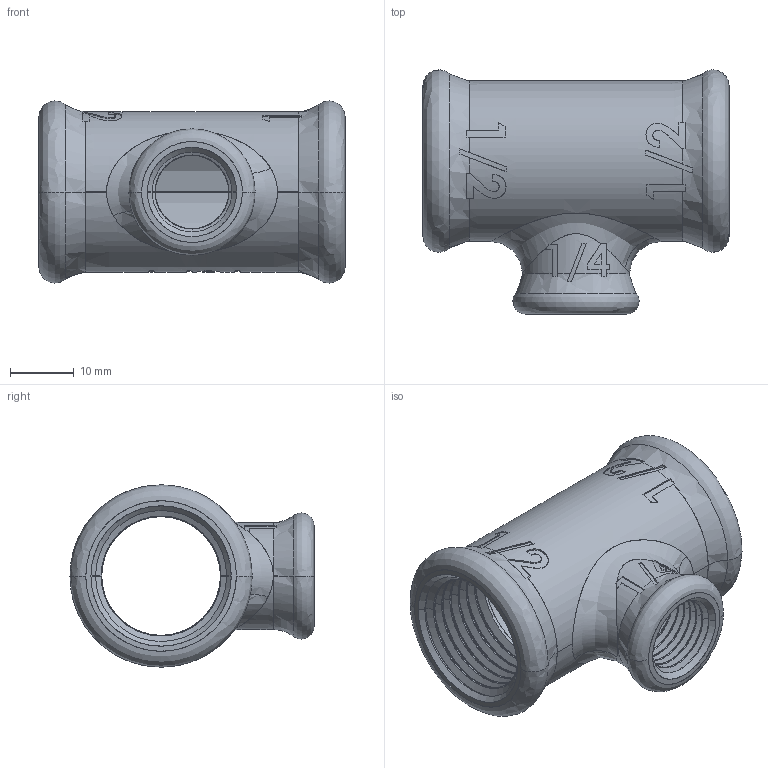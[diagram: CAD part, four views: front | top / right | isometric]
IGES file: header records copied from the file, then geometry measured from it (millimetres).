
Start section: SolidWorks IGES file using analytic representation for surfaces
Global section: file name: C:\Users\Joel Rosa\Desktop\Tubulação\12-45-XXX\12-45-025.IGS; native system: SolidWorks 2011; preprocessor: SolidWorks 2011; author: Joel Rosa; date: 121212.232935; units: millimetre
Bounding box: 48 x 38.3 x 28.6 mm (x, y, z)
Surface area: 10002.8 mm2 (no closed solid volume)
Topology: 0 solids, 0 shells, 388 faces, 3485 edges, 3485 vertices
Faces by surface type: bspline 269, revolution 119
